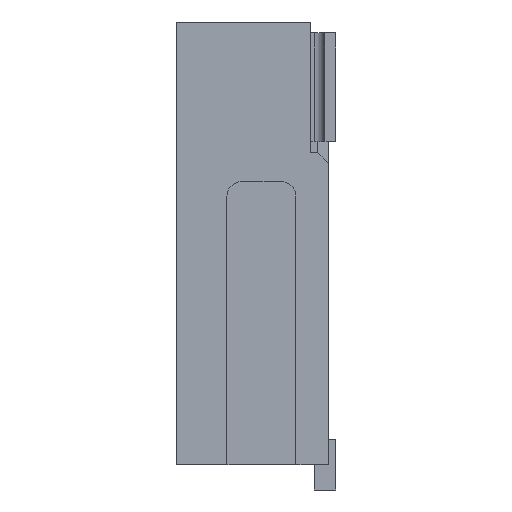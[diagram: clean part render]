
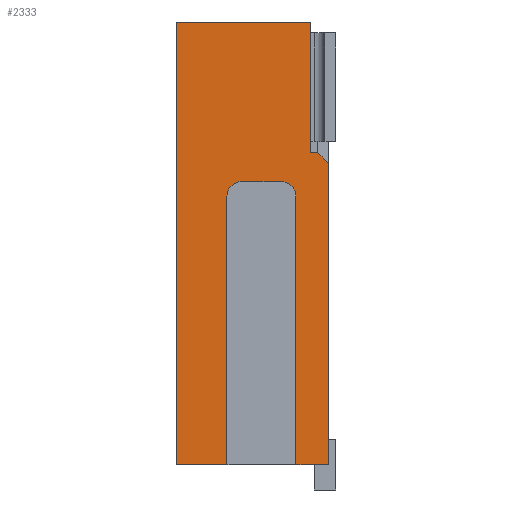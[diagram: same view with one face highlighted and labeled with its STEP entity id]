
A CAD part, left-side view. The second image highlights one B-rep face of the part: STEP entity #2333.
In plain terms, the highlighted planar face has unit normal (-1, 0, 0).
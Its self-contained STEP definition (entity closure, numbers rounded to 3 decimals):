
#209 = EDGE_CURVE ( 'NONE', #6436, #4769, #5727, .T. ) ;
#253 = DIRECTION ( 'NONE',  ( 0., 0., -1. ) ) ;
#306 = LINE ( 'NONE', #2877, #3952 ) ;
#516 = EDGE_CURVE ( 'NONE', #5603, #6222, #8166, .T. ) ;
#552 = CARTESIAN_POINT ( 'NONE',  ( -5.367, 0.426, 0.65 ) ) ;
#726 = CARTESIAN_POINT ( 'NONE',  ( -5.367, -0.724, 1.25 ) ) ;
#756 = CARTESIAN_POINT ( 'NONE',  ( -5.367, 1.126, -3.05 ) ) ;
#833 = CIRCLE ( 'NONE', #3000, 0.2 ) ;
#849 = CARTESIAN_POINT ( 'NONE',  ( -5.367, 1.126, -3.05 ) ) ;
#858 = ORIENTED_EDGE ( 'NONE', *, *, #1362, .T. ) ;
#1032 = CARTESIAN_POINT ( 'NONE',  ( -5.367, -0.724, 3.05 ) ) ;
#1157 = VERTEX_POINT ( 'NONE', #2202 ) ;
#1257 = VERTEX_POINT ( 'NONE', #1309 ) ;
#1309 = CARTESIAN_POINT ( 'NONE',  ( -5.367, -0.974, -3.05 ) ) ;
#1362 = EDGE_CURVE ( 'NONE', #6162, #4769, #5983, .T. ) ;
#1494 = EDGE_CURVE ( 'NONE', #5603, #1257, #306, .T. ) ;
#1618 = CARTESIAN_POINT ( 'NONE',  ( -5.367, -0.324, 0.85 ) ) ;
#1668 = VECTOR ( 'NONE', #8095, 1000. ) ;
#1688 = CARTESIAN_POINT ( 'NONE',  ( -5.367, -0.824, 1.25 ) ) ;
#1718 = PLANE ( 'NONE',  #7602 ) ;
#1799 = FACE_OUTER_BOUND ( 'NONE', #6000, .T. ) ;
#1876 = CARTESIAN_POINT ( 'NONE',  ( -5.367, 1.126, 3.05 ) ) ;
#1907 = VECTOR ( 'NONE', #4413, 1000. ) ;
#1988 = CARTESIAN_POINT ( 'NONE',  ( -5.367, -0.524, -3.05 ) ) ;
#2031 = VERTEX_POINT ( 'NONE', #1988 ) ;
#2202 = CARTESIAN_POINT ( 'NONE',  ( -5.367, -0.724, 1.25 ) ) ;
#2333 = ADVANCED_FACE ( 'NONE', ( #1799 ), #1718, .F. ) ;
#2406 = DIRECTION ( 'NONE',  ( 0., 0., 1. ) ) ;
#2436 = CARTESIAN_POINT ( 'NONE',  ( -5.367, 1.126, 3.05 ) ) ;
#2490 = VECTOR ( 'NONE', #3894, 1000. ) ;
#2525 = EDGE_CURVE ( 'NONE', #3240, #5806, #6580, .T. ) ;
#2785 = EDGE_CURVE ( 'NONE', #2031, #1257, #4460, .T. ) ;
#2821 = DIRECTION ( 'NONE',  ( 1., 0., 0. ) ) ;
#2843 = VECTOR ( 'NONE', #5860, 1000. ) ;
#2877 = CARTESIAN_POINT ( 'NONE',  ( -5.367, -0.974, 3.05 ) ) ;
#2959 = CARTESIAN_POINT ( 'NONE',  ( -5.367, -0.524, -3.05 ) ) ;
#3000 = AXIS2_PLACEMENT_3D ( 'NONE', #7834, #5345, #8270 ) ;
#3034 = ORIENTED_EDGE ( 'NONE', *, *, #8084, .F. ) ;
#3240 = VERTEX_POINT ( 'NONE', #1618 ) ;
#3618 = EDGE_CURVE ( 'NONE', #1157, #6222, #3850, .T. ) ;
#3691 = VECTOR ( 'NONE', #6654, 1000. ) ;
#3766 = VERTEX_POINT ( 'NONE', #1032 ) ;
#3788 = CIRCLE ( 'NONE', #4455, 0.2 ) ;
#3850 = LINE ( 'NONE', #5772, #6723 ) ;
#3894 = DIRECTION ( 'NONE',  ( 0., 1., 0. ) ) ;
#3952 = VECTOR ( 'NONE', #5437, 1000. ) ;
#3983 = EDGE_CURVE ( 'NONE', #1157, #3766, #7116, .T. ) ;
#3984 = VECTOR ( 'NONE', #7456, 1000. ) ;
#4090 = ORIENTED_EDGE ( 'NONE', *, *, #3983, .T. ) ;
#4103 = CARTESIAN_POINT ( 'NONE',  ( -5.367, 0.226, 0.85 ) ) ;
#4163 = EDGE_CURVE ( 'NONE', #6366, #3766, #6304, .T. ) ;
#4294 = CARTESIAN_POINT ( 'NONE',  ( -5.367, -0.974, 1.1 ) ) ;
#4371 = DIRECTION ( 'NONE',  ( 0., 1., 0. ) ) ;
#4410 = ORIENTED_EDGE ( 'NONE', *, *, #4163, .F. ) ;
#4413 = DIRECTION ( 'NONE',  ( 0., -1., 0. ) ) ;
#4455 = AXIS2_PLACEMENT_3D ( 'NONE', #6014, #2821, #253 ) ;
#4460 = LINE ( 'NONE', #756, #7058 ) ;
#4584 = VECTOR ( 'NONE', #2406, 1000. ) ;
#4613 = EDGE_CURVE ( 'NONE', #6436, #5806, #3788, .T. ) ;
#4762 = EDGE_CURVE ( 'NONE', #3240, #5049, #833, .T. ) ;
#4769 = VERTEX_POINT ( 'NONE', #5311 ) ;
#4901 = LINE ( 'NONE', #5521, #1668 ) ;
#4921 = DIRECTION ( 'NONE',  ( 1., 0., 0. ) ) ;
#4938 = ORIENTED_EDGE ( 'NONE', *, *, #4762, .T. ) ;
#5049 = VERTEX_POINT ( 'NONE', #6700 ) ;
#5100 = ORIENTED_EDGE ( 'NONE', *, *, #2785, .T. ) ;
#5236 = DIRECTION ( 'NONE',  ( 0., -1., 0. ) ) ;
#5311 = CARTESIAN_POINT ( 'NONE',  ( -5.367, 0.426, -3.05 ) ) ;
#5345 = DIRECTION ( 'NONE',  ( 1., 0., 0. ) ) ;
#5356 = CARTESIAN_POINT ( 'NONE',  ( -5.367, -0.824, 1.25 ) ) ;
#5437 = DIRECTION ( 'NONE',  ( 0., 0., -1. ) ) ;
#5521 = CARTESIAN_POINT ( 'NONE',  ( -5.367, 1.126, 3.05 ) ) ;
#5533 = ORIENTED_EDGE ( 'NONE', *, *, #1494, .F. ) ;
#5589 = ORIENTED_EDGE ( 'NONE', *, *, #516, .T. ) ;
#5603 = VERTEX_POINT ( 'NONE', #4294 ) ;
#5671 = ORIENTED_EDGE ( 'NONE', *, *, #3618, .F. ) ;
#5727 = LINE ( 'NONE', #8257, #8150 ) ;
#5772 = CARTESIAN_POINT ( 'NONE',  ( -5.367, -0.974, 1.25 ) ) ;
#5780 = CARTESIAN_POINT ( 'NONE',  ( -5.367, -0.524, 0.85 ) ) ;
#5806 = VERTEX_POINT ( 'NONE', #4103 ) ;
#5860 = DIRECTION ( 'NONE',  ( 0., 0., 1. ) ) ;
#5937 = CARTESIAN_POINT ( 'NONE',  ( -5.367, 1.126, -3.05 ) ) ;
#5983 = LINE ( 'NONE', #5937, #3691 ) ;
#6000 = EDGE_LOOP ( 'NONE', ( #858, #6036, #8285, #7445, #4938, #3034, #5100, #5533, #5589, #5671, #4090, #4410, #7018 ) ) ;
#6014 = CARTESIAN_POINT ( 'NONE',  ( -5.367, 0.226, 0.65 ) ) ;
#6036 = ORIENTED_EDGE ( 'NONE', *, *, #209, .F. ) ;
#6162 = VERTEX_POINT ( 'NONE', #849 ) ;
#6222 = VERTEX_POINT ( 'NONE', #5356 ) ;
#6235 = LINE ( 'NONE', #2959, #4584 ) ;
#6304 = LINE ( 'NONE', #2436, #1907 ) ;
#6340 = EDGE_CURVE ( 'NONE', #6366, #6162, #4901, .T. ) ;
#6366 = VERTEX_POINT ( 'NONE', #6953 ) ;
#6436 = VERTEX_POINT ( 'NONE', #552 ) ;
#6480 = DIRECTION ( 'NONE',  ( 0., 0., -1. ) ) ;
#6580 = LINE ( 'NONE', #5780, #2490 ) ;
#6654 = DIRECTION ( 'NONE',  ( 0., -1., 0. ) ) ;
#6700 = CARTESIAN_POINT ( 'NONE',  ( -5.367, -0.524, 0.65 ) ) ;
#6723 = VECTOR ( 'NONE', #5236, 1000. ) ;
#6953 = CARTESIAN_POINT ( 'NONE',  ( -5.367, 1.126, 3.05 ) ) ;
#7018 = ORIENTED_EDGE ( 'NONE', *, *, #6340, .T. ) ;
#7058 = VECTOR ( 'NONE', #7106, 1000. ) ;
#7106 = DIRECTION ( 'NONE',  ( 0., -1., 0. ) ) ;
#7116 = LINE ( 'NONE', #726, #2843 ) ;
#7445 = ORIENTED_EDGE ( 'NONE', *, *, #2525, .F. ) ;
#7456 = DIRECTION ( 'NONE',  ( 0., 0.707, 0.707 ) ) ;
#7602 = AXIS2_PLACEMENT_3D ( 'NONE', #1876, #4921, #4371 ) ;
#7834 = CARTESIAN_POINT ( 'NONE',  ( -5.367, -0.324, 0.65 ) ) ;
#8084 = EDGE_CURVE ( 'NONE', #2031, #5049, #6235, .T. ) ;
#8095 = DIRECTION ( 'NONE',  ( 0., 0., -1. ) ) ;
#8150 = VECTOR ( 'NONE', #6480, 1000. ) ;
#8166 = LINE ( 'NONE', #1688, #3984 ) ;
#8257 = CARTESIAN_POINT ( 'NONE',  ( -5.367, 0.426, 0.85 ) ) ;
#8270 = DIRECTION ( 'NONE',  ( 0., 0., -1. ) ) ;
#8285 = ORIENTED_EDGE ( 'NONE', *, *, #4613, .T. ) ;
